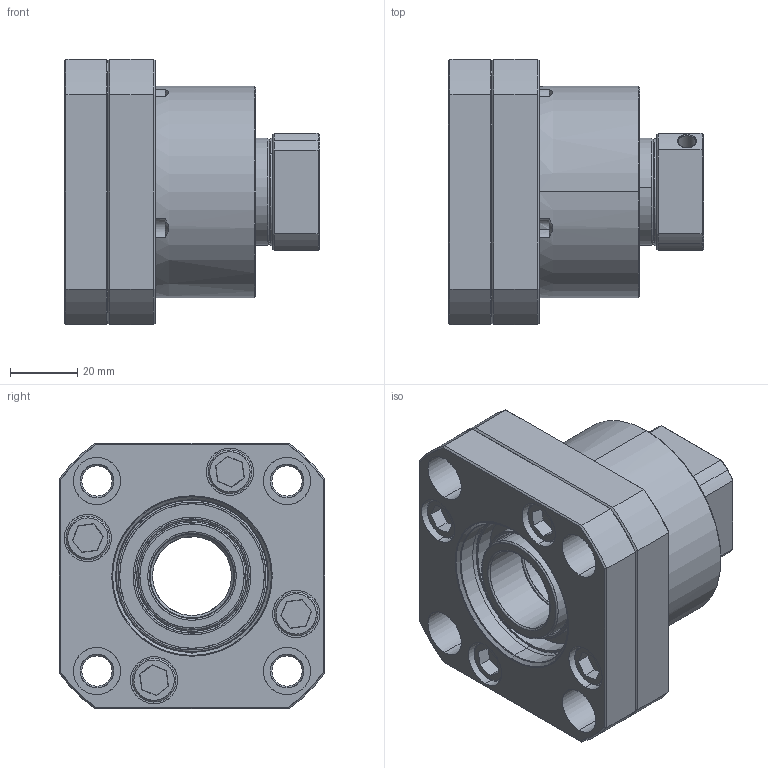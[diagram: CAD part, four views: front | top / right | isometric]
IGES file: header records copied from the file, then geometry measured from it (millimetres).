
Start section: SolidWorks IGES file using analytic representation for surfaces
Bounding box: 76 x 79 x 79 mm (x, y, z)
Surface area: 92191.2 mm2 (no closed solid volume)
Topology: 0 solids, 0 shells, 519 faces, 7508 edges, 7424 vertices
Faces by surface type: revolution 310, bspline 209
